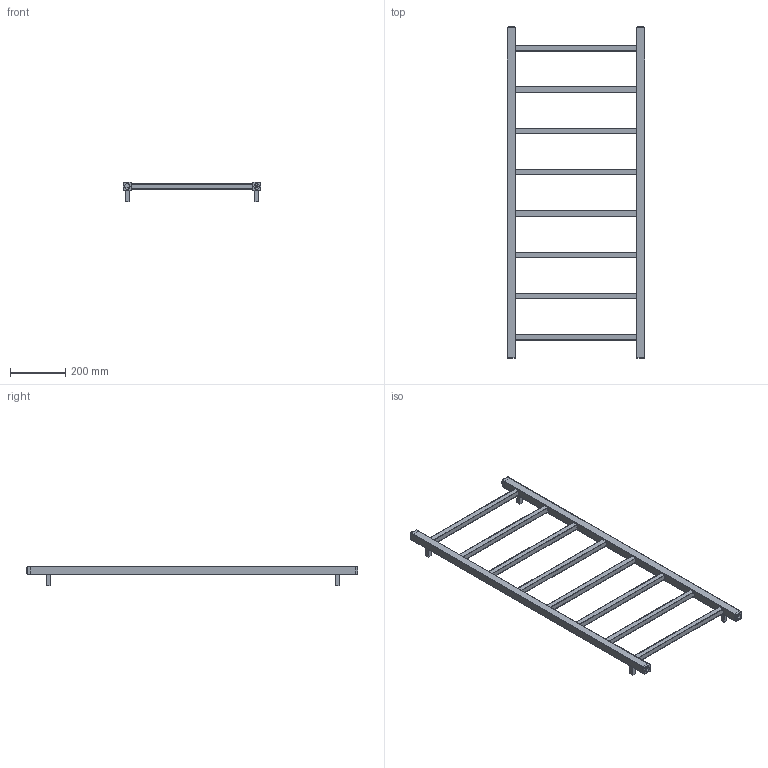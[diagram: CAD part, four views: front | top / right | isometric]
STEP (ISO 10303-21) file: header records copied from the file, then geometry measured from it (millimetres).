
FILE_DESCRIPTION (( 'STEP AP203' ), '1' );
FILE_NAME ('502011.STEP', '2026-03-05T15:13:21', ( '' ), ( '' ), 'SwSTEP 2.0', 'SolidWorks 2025', '' );
FILE_SCHEMA (( 'CONFIG_CONTROL_DESIGN' ));
Length unit declared in the file: millimetre
Products named in the file (5): 502011; tappo_sx.prt; TRAVERSINO TOWER 20 INOX; tappo_sfiato.prt; COLLETTORE TOWER 20 INOX_1200
Assembly tree (12 placements, depth 2):
  502011
    TRAVERSINO TOWER 20 INOX  x8
    COLLETTORE TOWER 20 INOX_1200  x2
    tappo_sfiato.prt
    tappo_sx.prt
Bounding box: 500 x 1206 x 70 mm (x, y, z)
Volume: 837918.8 mm3; surface area: 1069460.9 mm2
Topology: 10 solids, 14 shells, 453 faces, 1172 edges, 741 vertices
Faces by surface type: plane 246, cylinder 116, bspline 49, torus 24, sphere 16, cone 2
Entity records: 16876 total; most frequent: CARTESIAN_POINT 10634, ORIENTED_EDGE 1340, DIRECTION 788, EDGE_CURVE 674, VERTEX_POINT 429, B_SPLINE_CURVE_WITH_KNOTS 403, AXIS2_PLACEMENT_3D 294, EDGE_LOOP 292
